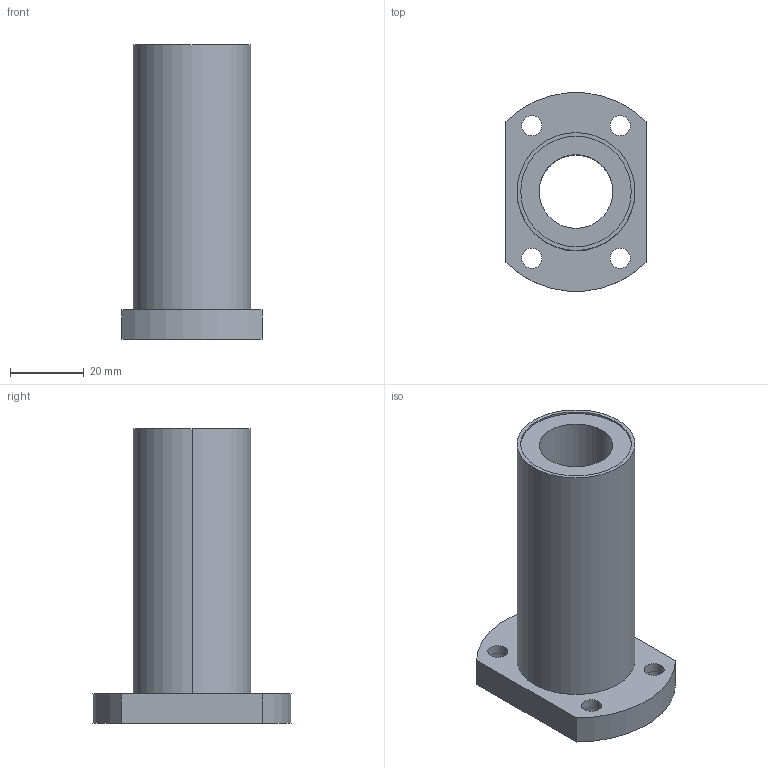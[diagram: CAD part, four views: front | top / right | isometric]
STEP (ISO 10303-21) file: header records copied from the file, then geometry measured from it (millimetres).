
FILE_DESCRIPTION((''),'2;1');
FILE_NAME('C:\Documents and Settings\ｿﾀﾀ蠑ｷ1\ｹﾙﾅﾁ ﾈｭｸ饅\ｺﾎﾇｰﾆﾄﾀﾏ\ﾁｦﾇｰ\LMH__LUU\LMH20LUU.stp','2005-06-15T10:44:16',('ｿﾀﾀ蠑ｷ1'),(''),'Autodesk Inventor 9','Autodesk Inventor 9','');
FILE_SCHEMA(('AUTOMOTIVE_DESIGN { 1 0 10303 214 1 1 1 1 }'));
Length unit declared in the file: millimetre
Products named in the file (1): LMH__
Bounding box: 38 x 53.8 x 80 mm (x, y, z)
Volume: 45293.8 mm3; surface area: 17343.5 mm2
Topology: 1 solids, 1 shells, 40 faces, 90 edges, 60 vertices
Faces by surface type: cylinder 28, plane 12
Entity records: 1193 total; most frequent: DIRECTION 228, CARTESIAN_POINT 191, ORIENTED_EDGE 180, AXIS2_PLACEMENT_3D 97, EDGE_CURVE 90, VERTEX_POINT 60, EDGE_LOOP 58, CIRCLE 56
